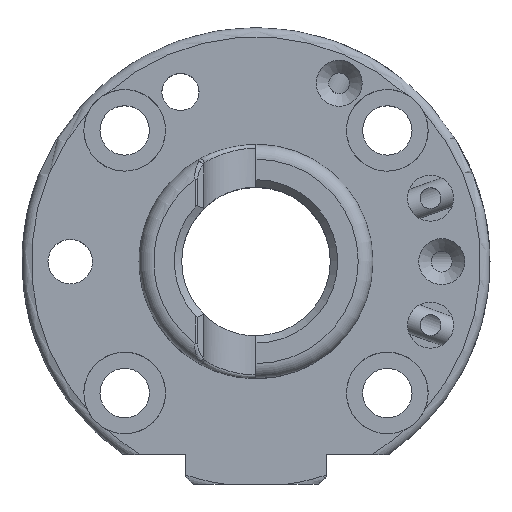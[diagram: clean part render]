
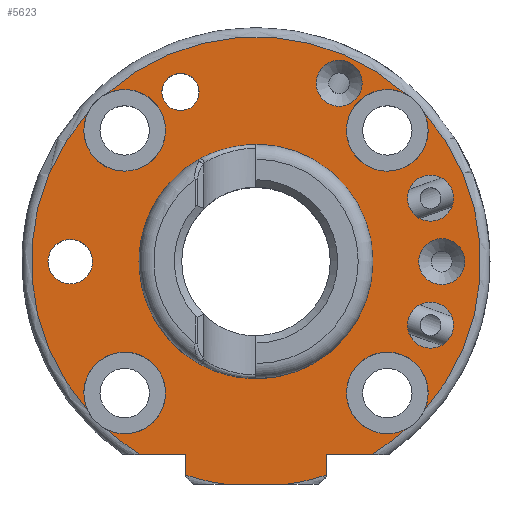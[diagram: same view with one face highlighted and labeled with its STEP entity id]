
A CAD part, top view. The second image highlights one B-rep face of the part: STEP entity #5623.
In plain terms, the highlighted planar face has unit normal (0, 0, 1).
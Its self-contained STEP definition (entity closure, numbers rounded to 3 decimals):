
#98=CIRCLE('',#5794,3.1);
#100=CIRCLE('',#5798,3.1);
#102=CIRCLE('',#5802,3.1);
#104=CIRCLE('',#5806,3.1);
#123=CIRCLE('',#5852,2.5);
#125=CIRCLE('',#5855,3.);
#129=CIRCLE('',#5865,15.75);
#136=CIRCLE('',#5876,5.5);
#138=CIRCLE('',#5878,5.5);
#141=CIRCLE('',#5884,5.5);
#143=CIRCLE('',#5886,5.5);
#146=CIRCLE('',#5892,5.5);
#148=CIRCLE('',#5894,5.5);
#151=CIRCLE('',#5900,30.25);
#152=CIRCLE('',#5901,5.5);
#153=CIRCLE('',#5902,5.5);
#154=CIRCLE('',#5903,30.25);
#155=CIRCLE('',#5904,30.25);
#156=CIRCLE('',#5905,30.25);
#157=CIRCLE('',#5906,30.25);
#158=CIRCLE('',#5907,30.25);
#159=CIRCLE('',#5908,30.25);
#209=FACE_BOUND('',#964,.T.);
#210=FACE_BOUND('',#965,.T.);
#211=FACE_BOUND('',#966,.T.);
#212=FACE_BOUND('',#967,.T.);
#213=FACE_BOUND('',#968,.T.);
#214=FACE_BOUND('',#969,.T.);
#215=FACE_BOUND('',#970,.T.);
#626=FACE_OUTER_BOUND('',#963,.T.);
#963=EDGE_LOOP('',(#4949,#4950,#4951,#4952,#4953,#4954,#4955,#4956,#4957,
#4958,#4959,#4960,#4961,#4962,#4963,#4964,#4965,#4966,#4967,#4968));
#964=EDGE_LOOP('',(#4969));
#965=EDGE_LOOP('',(#4970));
#966=EDGE_LOOP('',(#4971));
#967=EDGE_LOOP('',(#4972));
#968=EDGE_LOOP('',(#4973));
#969=EDGE_LOOP('',(#4974));
#970=EDGE_LOOP('',(#4975));
#1393=LINE('',#12209,#1804);
#1394=LINE('',#12211,#1805);
#1395=LINE('',#12215,#1806);
#1396=LINE('',#12219,#1807);
#1397=LINE('',#12221,#1808);
#1804=VECTOR('',#6809,10.);
#1805=VECTOR('',#6810,10.);
#1806=VECTOR('',#6813,10.);
#1807=VECTOR('',#6816,10.);
#1808=VECTOR('',#6817,10.);
#2559=VERTEX_POINT('',#11654);
#2563=VERTEX_POINT('',#11702);
#2567=VERTEX_POINT('',#11748);
#2571=VERTEX_POINT('',#11794);
#2598=VERTEX_POINT('',#11997);
#2600=VERTEX_POINT('',#12003);
#2613=VERTEX_POINT('',#12093);
#2616=VERTEX_POINT('',#12108);
#2617=VERTEX_POINT('',#12109);
#2618=VERTEX_POINT('',#12124);
#2622=VERTEX_POINT('',#12138);
#2623=VERTEX_POINT('',#12139);
#2624=VERTEX_POINT('',#12154);
#2628=VERTEX_POINT('',#12168);
#2629=VERTEX_POINT('',#12169);
#2630=VERTEX_POINT('',#12184);
#2634=VERTEX_POINT('',#12198);
#2635=VERTEX_POINT('',#12200);
#2636=VERTEX_POINT('',#12202);
#2637=VERTEX_POINT('',#12206);
#2638=VERTEX_POINT('',#12208);
#2639=VERTEX_POINT('',#12210);
#2640=VERTEX_POINT('',#12212);
#2641=VERTEX_POINT('',#12214);
#2642=VERTEX_POINT('',#12216);
#2643=VERTEX_POINT('',#12218);
#2644=VERTEX_POINT('',#12220);
#3305=EDGE_CURVE('',#2559,#2559,#98,.T.);
#3311=EDGE_CURVE('',#2563,#2563,#100,.T.);
#3317=EDGE_CURVE('',#2567,#2567,#102,.T.);
#3323=EDGE_CURVE('',#2571,#2571,#104,.T.);
#3368=EDGE_CURVE('',#2598,#2598,#123,.T.);
#3371=EDGE_CURVE('',#2600,#2600,#125,.T.);
#3390=EDGE_CURVE('',#2613,#2613,#129,.T.);
#3399=EDGE_CURVE('',#2618,#2616,#136,.T.);
#3402=EDGE_CURVE('',#2617,#2618,#138,.T.);
#3407=EDGE_CURVE('',#2624,#2622,#141,.T.);
#3410=EDGE_CURVE('',#2623,#2624,#143,.T.);
#3415=EDGE_CURVE('',#2630,#2628,#146,.T.);
#3418=EDGE_CURVE('',#2629,#2630,#148,.T.);
#3422=EDGE_CURVE('',#2634,#2616,#151,.T.);
#3423=EDGE_CURVE('',#2634,#2635,#152,.T.);
#3424=EDGE_CURVE('',#2635,#2636,#153,.T.);
#3425=EDGE_CURVE('',#2629,#2636,#154,.T.);
#3426=EDGE_CURVE('',#2623,#2628,#155,.T.);
#3427=EDGE_CURVE('',#2637,#2622,#156,.T.);
#3428=EDGE_CURVE('',#2637,#2638,#1393,.T.);
#3429=EDGE_CURVE('',#2638,#2639,#1394,.T.);
#3430=EDGE_CURVE('',#2640,#2639,#157,.T.);
#3431=EDGE_CURVE('',#2640,#2641,#1395,.T.);
#3432=EDGE_CURVE('',#2642,#2641,#158,.T.);
#3433=EDGE_CURVE('',#2642,#2643,#1396,.T.);
#3434=EDGE_CURVE('',#2643,#2644,#1397,.T.);
#3435=EDGE_CURVE('',#2617,#2644,#159,.T.);
#4949=ORIENTED_EDGE('',*,*,#3402,.T.);
#4950=ORIENTED_EDGE('',*,*,#3399,.T.);
#4951=ORIENTED_EDGE('',*,*,#3422,.F.);
#4952=ORIENTED_EDGE('',*,*,#3423,.T.);
#4953=ORIENTED_EDGE('',*,*,#3424,.T.);
#4954=ORIENTED_EDGE('',*,*,#3425,.F.);
#4955=ORIENTED_EDGE('',*,*,#3418,.T.);
#4956=ORIENTED_EDGE('',*,*,#3415,.T.);
#4957=ORIENTED_EDGE('',*,*,#3426,.F.);
#4958=ORIENTED_EDGE('',*,*,#3410,.T.);
#4959=ORIENTED_EDGE('',*,*,#3407,.T.);
#4960=ORIENTED_EDGE('',*,*,#3427,.F.);
#4961=ORIENTED_EDGE('',*,*,#3428,.T.);
#4962=ORIENTED_EDGE('',*,*,#3429,.T.);
#4963=ORIENTED_EDGE('',*,*,#3430,.F.);
#4964=ORIENTED_EDGE('',*,*,#3431,.T.);
#4965=ORIENTED_EDGE('',*,*,#3432,.F.);
#4966=ORIENTED_EDGE('',*,*,#3433,.T.);
#4967=ORIENTED_EDGE('',*,*,#3434,.T.);
#4968=ORIENTED_EDGE('',*,*,#3435,.F.);
#4969=ORIENTED_EDGE('',*,*,#3305,.T.);
#4970=ORIENTED_EDGE('',*,*,#3311,.T.);
#4971=ORIENTED_EDGE('',*,*,#3317,.T.);
#4972=ORIENTED_EDGE('',*,*,#3323,.T.);
#4973=ORIENTED_EDGE('',*,*,#3368,.T.);
#4974=ORIENTED_EDGE('',*,*,#3371,.T.);
#4975=ORIENTED_EDGE('',*,*,#3390,.T.);
#5214=PLANE('',#5899);
#5623=ADVANCED_FACE('',(#626,#209,#210,#211,#212,#213,#214,#215),#5214,
 .T.);
#5794=AXIS2_PLACEMENT_3D('',#11655,#6540,#6541);
#5798=AXIS2_PLACEMENT_3D('',#11703,#6550,#6551);
#5802=AXIS2_PLACEMENT_3D('',#11749,#6560,#6561);
#5806=AXIS2_PLACEMENT_3D('',#11795,#6570,#6571);
#5852=AXIS2_PLACEMENT_3D('',#11998,#6680,#6681);
#5855=AXIS2_PLACEMENT_3D('',#12004,#6687,#6688);
#5865=AXIS2_PLACEMENT_3D('',#12094,#6720,#6721);
#5876=AXIS2_PLACEMENT_3D('',#12125,#6743,#6744);
#5878=AXIS2_PLACEMENT_3D('',#12129,#6748,#6749);
#5884=AXIS2_PLACEMENT_3D('',#12155,#6761,#6762);
#5886=AXIS2_PLACEMENT_3D('',#12159,#6766,#6767);
#5892=AXIS2_PLACEMENT_3D('',#12185,#6779,#6780);
#5894=AXIS2_PLACEMENT_3D('',#12189,#6784,#6785);
#5899=AXIS2_PLACEMENT_3D('',#12197,#6795,#6796);
#5900=AXIS2_PLACEMENT_3D('',#12199,#6797,#6798);
#5901=AXIS2_PLACEMENT_3D('',#12201,#6799,#6800);
#5902=AXIS2_PLACEMENT_3D('',#12203,#6801,#6802);
#5903=AXIS2_PLACEMENT_3D('',#12204,#6803,#6804);
#5904=AXIS2_PLACEMENT_3D('',#12205,#6805,#6806);
#5905=AXIS2_PLACEMENT_3D('',#12207,#6807,#6808);
#5906=AXIS2_PLACEMENT_3D('',#12213,#6811,#6812);
#5907=AXIS2_PLACEMENT_3D('',#12217,#6814,#6815);
#5908=AXIS2_PLACEMENT_3D('',#12222,#6818,#6819);
#6540=DIRECTION('center_axis',(0.,0.,-1.));
#6541=DIRECTION('ref_axis',(1.,0.,0.));
#6550=DIRECTION('center_axis',(0.,0.,-1.));
#6551=DIRECTION('ref_axis',(0.94,0.342,0.));
#6560=DIRECTION('center_axis',(0.,0.,-1.));
#6561=DIRECTION('ref_axis',(0.94,-0.342,0.));
#6570=DIRECTION('center_axis',(0.,0.,-1.));
#6571=DIRECTION('ref_axis',(1.,0.,0.));
#6680=DIRECTION('center_axis',(0.,0.,-1.));
#6681=DIRECTION('ref_axis',(1.,0.,0.));
#6687=DIRECTION('center_axis',(0.,0.,-1.));
#6688=DIRECTION('ref_axis',(1.,0.,0.));
#6720=DIRECTION('center_axis',(0.,0.,-1.));
#6721=DIRECTION('ref_axis',(1.,0.,0.));
#6743=DIRECTION('center_axis',(0.,0.,-1.));
#6744=DIRECTION('ref_axis',(0.,-1.,0.));
#6748=DIRECTION('center_axis',(0.,0.,-1.));
#6749=DIRECTION('ref_axis',(0.,-1.,0.));
#6761=DIRECTION('center_axis',(0.,0.,-1.));
#6762=DIRECTION('ref_axis',(-1.,0.,0.));
#6766=DIRECTION('center_axis',(0.,0.,-1.));
#6767=DIRECTION('ref_axis',(-1.,0.,0.));
#6779=DIRECTION('center_axis',(0.,0.,-1.));
#6780=DIRECTION('ref_axis',(0.,1.,0.));
#6784=DIRECTION('center_axis',(0.,0.,-1.));
#6785=DIRECTION('ref_axis',(0.,1.,0.));
#6795=DIRECTION('center_axis',(0.,0.,1.));
#6796=DIRECTION('ref_axis',(1.,0.,0.));
#6797=DIRECTION('center_axis',(0.,0.,-1.));
#6798=DIRECTION('ref_axis',(1.,0.,0.));
#6799=DIRECTION('center_axis',(0.,0.,-1.));
#6800=DIRECTION('ref_axis',(1.,0.,0.));
#6801=DIRECTION('center_axis',(0.,0.,-1.));
#6802=DIRECTION('ref_axis',(1.,0.,0.));
#6803=DIRECTION('center_axis',(0.,0.,-1.));
#6804=DIRECTION('ref_axis',(1.,0.,0.));
#6805=DIRECTION('center_axis',(0.,0.,-1.));
#6806=DIRECTION('ref_axis',(1.,0.,0.));
#6807=DIRECTION('center_axis',(0.,0.,-1.));
#6808=DIRECTION('ref_axis',(1.,0.,0.));
#6809=DIRECTION('',(1.,0.,0.));
#6810=DIRECTION('',(0.,-1.,0.));
#6811=DIRECTION('center_axis',(0.,0.,-1.));
#6812=DIRECTION('ref_axis',(1.,0.,0.));
#6813=DIRECTION('',(1.,0.,0.));
#6814=DIRECTION('center_axis',(0.,0.,-1.));
#6815=DIRECTION('ref_axis',(1.,0.,0.));
#6816=DIRECTION('',(0.,1.,0.));
#6817=DIRECTION('',(1.,0.,0.));
#6818=DIRECTION('center_axis',(0.,0.,-1.));
#6819=DIRECTION('ref_axis',(1.,0.,0.));
#11654=CARTESIAN_POINT('',(8.099,24.017,16.));
#11655=CARTESIAN_POINT('Origin',(11.199,24.017,16.));
#11702=CARTESIAN_POINT('',(20.579,7.49,16.));
#11703=CARTESIAN_POINT('Origin',(23.492,8.551,16.));
#11748=CARTESIAN_POINT('',(20.579,-7.49,16.));
#11749=CARTESIAN_POINT('Origin',(23.492,-8.551,16.));
#11794=CARTESIAN_POINT('',(21.9,0.,16.));
#11795=CARTESIAN_POINT('Origin',(25.,0.,16.));
#11997=CARTESIAN_POINT('',(-12.668,22.839,16.));
#11998=CARTESIAN_POINT('Origin',(-10.168,22.839,16.));
#12003=CARTESIAN_POINT('',(-28.,0.,16.));
#12004=CARTESIAN_POINT('Origin',(-25.,0.,16.));
#12093=CARTESIAN_POINT('',(15.75,0.,16.));
#12094=CARTESIAN_POINT('Origin',(0.,0.,16.));
#12108=CARTESIAN_POINT('',(22.627,-20.077,16.));
#12109=CARTESIAN_POINT('',(20.077,-22.627,16.));
#12124=CARTESIAN_POINT('',(17.678,-12.178,16.));
#12125=CARTESIAN_POINT('Origin',(17.678,-17.678,16.));
#12129=CARTESIAN_POINT('Origin',(17.678,-17.678,16.));
#12138=CARTESIAN_POINT('',(-20.077,-22.627,16.));
#12139=CARTESIAN_POINT('',(-22.627,-20.077,16.));
#12154=CARTESIAN_POINT('',(-12.178,-17.678,16.));
#12155=CARTESIAN_POINT('Origin',(-17.678,-17.678,16.));
#12159=CARTESIAN_POINT('Origin',(-17.678,-17.678,16.));
#12168=CARTESIAN_POINT('',(-22.627,20.077,16.));
#12169=CARTESIAN_POINT('',(-20.077,22.627,16.));
#12184=CARTESIAN_POINT('',(-17.678,12.178,16.));
#12185=CARTESIAN_POINT('Origin',(-17.678,17.678,16.));
#12189=CARTESIAN_POINT('Origin',(-17.678,17.678,16.));
#12197=CARTESIAN_POINT('Origin',(-31.5,0.,16.));
#12198=CARTESIAN_POINT('',(22.627,20.077,16.));
#12199=CARTESIAN_POINT('Origin',(0.,0.,16.));
#12200=CARTESIAN_POINT('',(12.178,17.678,16.));
#12201=CARTESIAN_POINT('Origin',(17.678,17.678,16.));
#12202=CARTESIAN_POINT('',(20.077,22.627,16.));
#12203=CARTESIAN_POINT('Origin',(17.678,17.678,16.));
#12204=CARTESIAN_POINT('Origin',(0.,0.,16.));
#12205=CARTESIAN_POINT('Origin',(0.,0.,16.));
#12206=CARTESIAN_POINT('',(-15.462,-26.,16.));
#12207=CARTESIAN_POINT('Origin',(0.,0.,16.));
#12208=CARTESIAN_POINT('',(-9.45,-26.,16.));
#12209=CARTESIAN_POINT('',(-24.642,-26.,16.));
#12210=CARTESIAN_POINT('',(-9.45,-28.736,16.));
#12211=CARTESIAN_POINT('',(-9.45,-13.,16.));
#12212=CARTESIAN_POINT('',(-4.25,-29.95,16.));
#12213=CARTESIAN_POINT('Origin',(0.,0.,16.));
#12214=CARTESIAN_POINT('',(4.25,-29.95,16.));
#12215=CARTESIAN_POINT('',(-19.975,-29.95,16.));
#12216=CARTESIAN_POINT('',(9.45,-28.736,16.));
#12217=CARTESIAN_POINT('Origin',(0.,0.,16.));
#12218=CARTESIAN_POINT('',(9.45,-26.,16.));
#12219=CARTESIAN_POINT('',(9.45,-14.475,16.));
#12220=CARTESIAN_POINT('',(15.462,-26.,16.));
#12221=CARTESIAN_POINT('',(-11.025,-26.,16.));
#12222=CARTESIAN_POINT('Origin',(0.,0.,16.));
